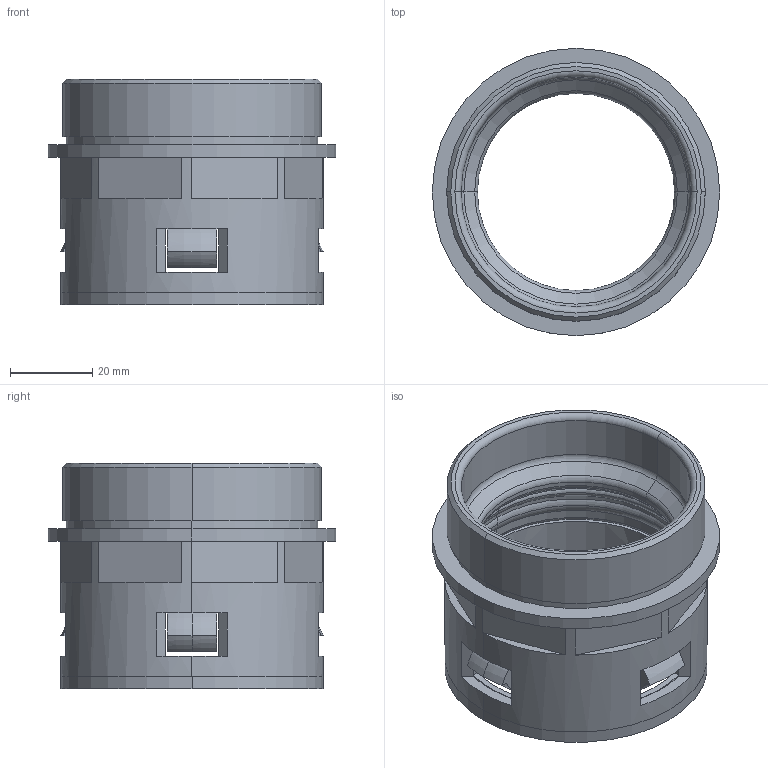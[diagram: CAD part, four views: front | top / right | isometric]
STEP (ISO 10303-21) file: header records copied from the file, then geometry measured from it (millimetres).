
FILE_DESCRIPTION (( 'STEP AP203' ), '1' );
FILE_NAME ('WQG-M63 AD54.5.STEP', '2013-12-12T08:26:44', ( 'User' ), ( 'Microsoft' ), 'SwSTEP 2.0', 'SolidWorks 2010', '' );
FILE_SCHEMA (( 'CONFIG_CONTROL_DESIGN' ));
Length unit declared in the file: millimetre
Products named in the file (4): WQG-M63 AD54.5; WQG-M63 AD54.5-01; NSK-AD54.5; GFD-AD54.5
Assembly tree (3 placements, depth 2):
  WQG-M63 AD54.5
    GFD-AD54.5
    WQG-M63 AD54.5-01
    NSK-AD54.5
Bounding box: 70 x 70 x 55 mm (x, y, z)
Volume: 41378.1 mm3; surface area: 39853.7 mm2
Topology: 3 solids, 3 shells, 189 faces, 488 edges, 303 vertices
Faces by surface type: plane 84, cone 45, cylinder 32, torus 28
Entity records: 6371 total; most frequent: CARTESIAN_POINT 1162, DIRECTION 1093, ORIENTED_EDGE 976, EDGE_CURVE 488, AXIS2_PLACEMENT_3D 434, VERTEX_POINT 303, CIRCLE 239, LINE 225
